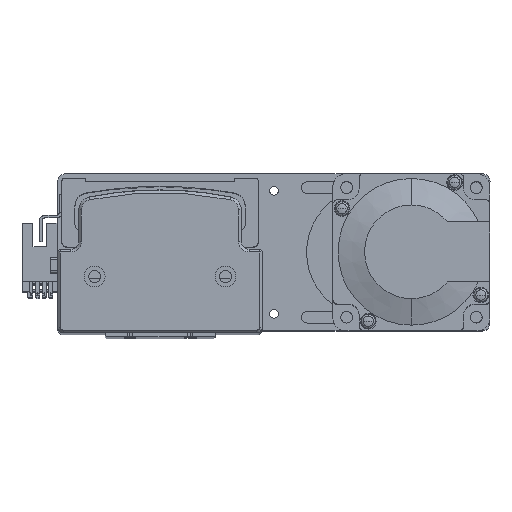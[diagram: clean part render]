
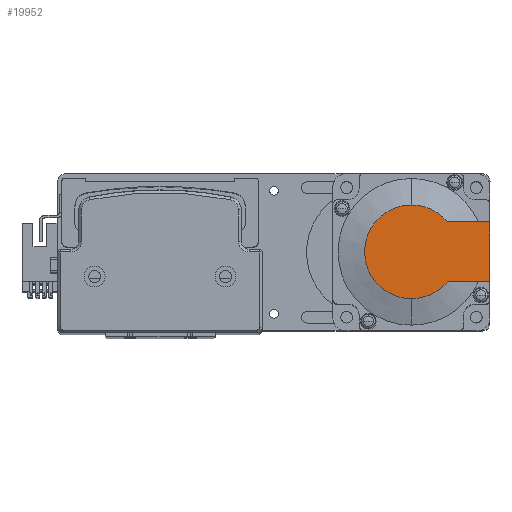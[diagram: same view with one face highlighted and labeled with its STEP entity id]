
A CAD part, top view. The second image highlights one B-rep face of the part: STEP entity #19952.
In plain terms, the highlighted planar face has unit normal (0, 0, 1) as drawn and (-1, 0, 0) by its records, which use the part's own axes.
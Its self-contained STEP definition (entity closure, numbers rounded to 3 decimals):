
#1117 = VERTEX_POINT ( 'NONE', #24117 ) ;
#3011 = EDGE_CURVE ( 'NONE', #1117, #21518, #40169, .T. ) ;
#3170 = AXIS2_PLACEMENT_3D ( 'NONE', #8493, #34420, #12344 ) ;
#4051 = DIRECTION ( 'NONE',  ( 0., 0., 1. ) ) ;
#4546 = EDGE_CURVE ( 'NONE', #47071, #1117, #46425, .T. ) ;
#4937 = CARTESIAN_POINT ( 'NONE',  ( -118.5, 0., -17.881 ) ) ;
#5659 = CARTESIAN_POINT ( 'NONE',  ( -118.5, -8.941, -11.45 ) ) ;
#8493 = CARTESIAN_POINT ( 'NONE',  ( -118.5, 0., 0. ) ) ;
#8840 = VECTOR ( 'NONE', #41593, 1000. ) ;
#10449 = ORIENTED_EDGE ( 'NONE', *, *, #4546, .T. ) ;
#11070 = CARTESIAN_POINT ( 'NONE',  ( -118.5, 30., -11.45 ) ) ;
#12344 = DIRECTION ( 'NONE',  ( 0., 0., -1. ) ) ;
#14504 = ORIENTED_EDGE ( 'NONE', *, *, #27836, .F. ) ;
#14684 = CARTESIAN_POINT ( 'NONE',  ( -118.5, 13.735, 11.45 ) ) ;
#14821 = LINE ( 'NONE', #30112, #23511 ) ;
#15039 = VERTEX_POINT ( 'NONE', #35446 ) ;
#15192 = VERTEX_POINT ( 'NONE', #11070 ) ;
#16809 = DIRECTION ( 'NONE',  ( -1., 0., 0. ) ) ;
#17387 = CARTESIAN_POINT ( 'NONE',  ( -118.5, -8.941, 0. ) ) ;
#18426 = DIRECTION ( 'NONE',  ( -1., 0., 0. ) ) ;
#18900 = CIRCLE ( 'NONE', #3170, 17.881 ) ;
#19687 = ORIENTED_EDGE ( 'NONE', *, *, #3011, .T. ) ;
#19952 = ADVANCED_FACE ( 'NONE', ( #35065 ), #24456, .T. ) ;
#21096 = DIRECTION ( 'NONE',  ( 0., 0., 1. ) ) ;
#21518 = VERTEX_POINT ( 'NONE', #14684 ) ;
#21632 = CARTESIAN_POINT ( 'NONE',  ( -118.5, 13.735, -11.45 ) ) ;
#22366 = ORIENTED_EDGE ( 'NONE', *, *, #27982, .T. ) ;
#23511 = VECTOR ( 'NONE', #4051, 1000. ) ;
#24117 = CARTESIAN_POINT ( 'NONE',  ( -118.5, 0., 17.881 ) ) ;
#24456 = PLANE ( 'NONE',  #37971 ) ;
#24573 = ORIENTED_EDGE ( 'NONE', *, *, #27771, .F. ) ;
#27771 = EDGE_CURVE ( 'NONE', #15192, #15039, #14821, .T. ) ;
#27836 = EDGE_CURVE ( 'NONE', #15039, #21518, #46887, .T. ) ;
#27849 = EDGE_CURVE ( 'NONE', #41587, #47071, #18900, .T. ) ;
#27982 = EDGE_CURVE ( 'NONE', #15192, #41587, #29732, .T. ) ;
#29682 = EDGE_LOOP ( 'NONE', ( #22366, #41607, #10449, #19687, #14504, #24573 ) ) ;
#29732 = LINE ( 'NONE', #5659, #47980 ) ;
#30112 = CARTESIAN_POINT ( 'NONE',  ( -118.5, 30., 25. ) ) ;
#30579 = CARTESIAN_POINT ( 'NONE',  ( -118.5, 0., 11.45 ) ) ;
#34420 = DIRECTION ( 'NONE',  ( -1., 0., 0. ) ) ;
#35065 = FACE_OUTER_BOUND ( 'NONE', #29682, .T. ) ;
#35446 = CARTESIAN_POINT ( 'NONE',  ( -118.5, 30., 11.45 ) ) ;
#36719 = AXIS2_PLACEMENT_3D ( 'NONE', #38748, #16809, #42397 ) ;
#37971 = AXIS2_PLACEMENT_3D ( 'NONE', #17387, #42957, #21096 ) ;
#38748 = CARTESIAN_POINT ( 'NONE',  ( -118.5, 0., 0. ) ) ;
#39017 = DIRECTION ( 'NONE',  ( 0., -1., 0. ) ) ;
#40169 = CIRCLE ( 'NONE', #36719, 17.881 ) ;
#40334 = CARTESIAN_POINT ( 'NONE',  ( -118.5, 0., 0. ) ) ;
#41587 = VERTEX_POINT ( 'NONE', #21632 ) ;
#41593 = DIRECTION ( 'NONE',  ( 0., -1., 0. ) ) ;
#41607 = ORIENTED_EDGE ( 'NONE', *, *, #27849, .T. ) ;
#42397 = DIRECTION ( 'NONE',  ( 0., 0., -1. ) ) ;
#42957 = DIRECTION ( 'NONE',  ( -1., 0., 0. ) ) ;
#43980 = DIRECTION ( 'NONE',  ( 0., 0., -1. ) ) ;
#45935 = AXIS2_PLACEMENT_3D ( 'NONE', #40334, #18426, #43980 ) ;
#46425 = CIRCLE ( 'NONE', #45935, 17.881 ) ;
#46887 = LINE ( 'NONE', #30579, #8840 ) ;
#47071 = VERTEX_POINT ( 'NONE', #4937 ) ;
#47980 = VECTOR ( 'NONE', #39017, 1000. ) ;
